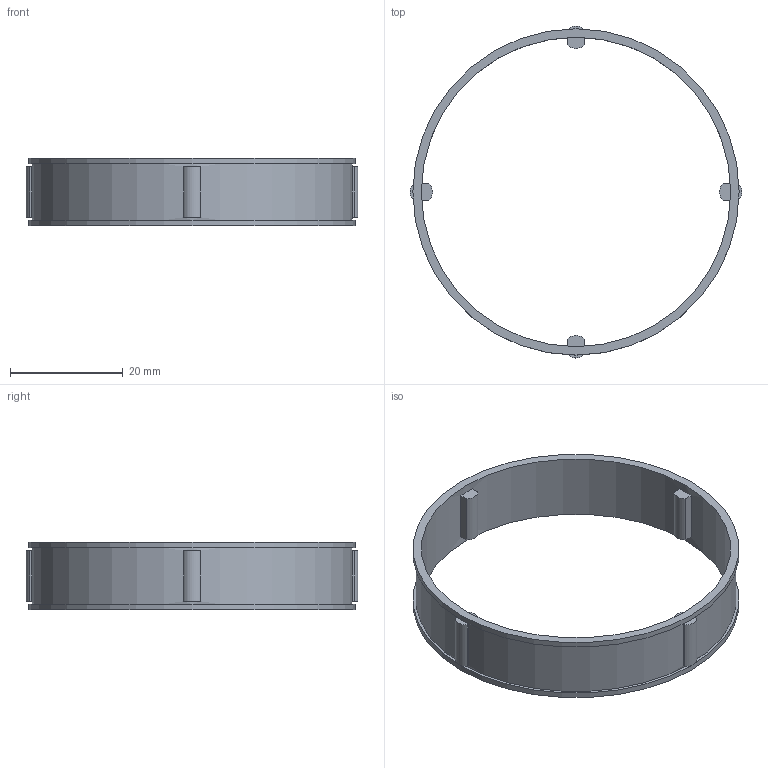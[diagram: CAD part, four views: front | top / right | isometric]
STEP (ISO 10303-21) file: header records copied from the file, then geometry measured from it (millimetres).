
FILE_DESCRIPTION(/* description */ (''),/* implementation_level */ '2;1');
FILE_NAME(/* name */ '300494 FE 459 Z.stp',/* time_stamp */ '2016-11-03T10:38:54+01:00',/* author */ (''),/* organization */ (''),/* preprocessor_version */ 'ST-DEVELOPER v15',/* originating_system */ 'SIEMENS PLM Software NX 8.5',/* authorisation */ '');
FILE_SCHEMA (('CONFIG_CONTROL_DESIGN'));
Length unit declared in the file: millimetre
Products named in the file (1): ATE0000080_01
Bounding box: 59 x 59 x 12 mm (x, y, z)
Volume: 2567.4 mm3; surface area: 5152.1 mm2
Topology: 1 solids, 1 shells, 48 faces, 114 edges, 76 vertices
Faces by surface type: plane 36, cylinder 12
Full cylindrical faces by diameter (mm): 55 x1, 57 x1, 58 x2
Entity records: 1420 total; most frequent: DIRECTION 242, CARTESIAN_POINT 225, ORIENTED_EDGE 208, EDGE_CURVE 104, AXIS2_PLACEMENT_3D 89, VERTEX_POINT 72, LINE 64, VECTOR 64
